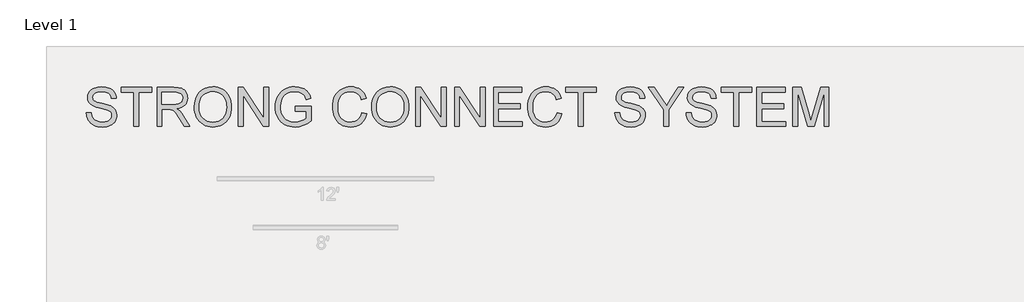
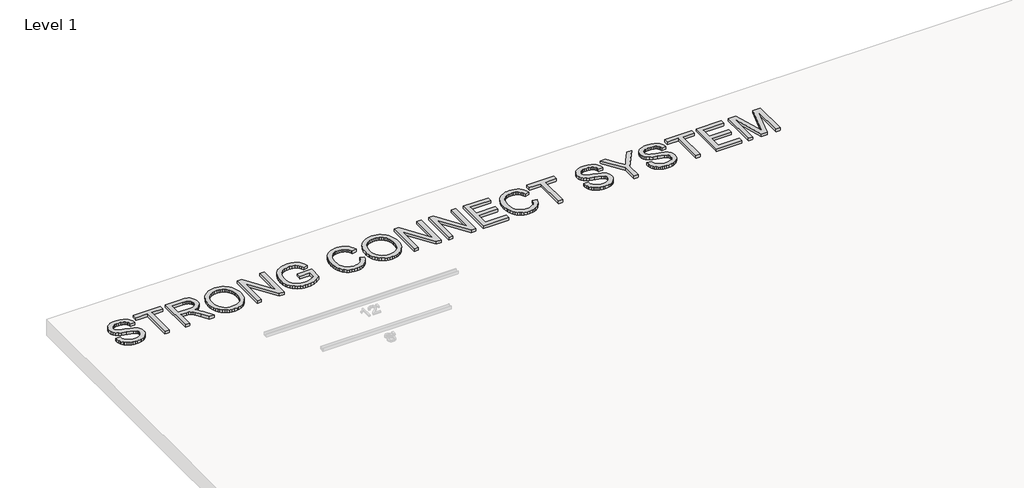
# One storey, part 8 of 9: 1 proxy.
"""IFC4 building model written with IfcOpenShell, lengths in millimetres."""

from ifc_helpers import new_model, si_unit, origin, origin_with_axes, place, context, project, spatial, polyline, outline, extrude, element, save

model = new_model("IFC4")

# Units and contexts
model_context = context("Model", 3, world=origin())
ifc_project = project(units=[si_unit("LENGTHUNIT", "METRE", prefix="MILLI")], contexts=[model_context])

# Site, building, storey
site = spatial("IfcSite", under=ifc_project)
building = spatial("IfcBuilding", under=site)
storey = spatial("IfcBuildingStorey", under=building, Name="Level 1", Elevation=0.0)

# Proxy
placement = place(None, origin())
element("IfcBuildingElementProxy", 1, Name="24\" Arial 2", ObjectType="24\" Arial 2", at=placement, inside=storey, context=model_context, shape_type="SweptSolid", body=[
    extrude(outline(polyline([(-11072.3689962, 14253.6450973), (-10996.2272227, 14253.6450973), (-10987.4902516, 14211.391618), (-10971.6893464, 14177.4289666), (-10947.0399344, 14150.4744813), (-10911.7574427, 14129.2455005), (-10868.6302662, 14115.4708291), (-10820.4468002, 14110.879272), (-10778.0260172, 14114.3554711), (-10740.8845954, 14124.7840685), (-10710.7885185, 14141.291367), (-10689.5037698, 14163.0036696), (-10676.8444563, 14187.9319212), (-10672.6246852, 14214.0870665), (-10675.7848662, 14239.5729971), (-10685.2654093, 14261.6013178), (-10704.5239243, 14280.3951003), (-10737.018021, 14296.1774161), (-10847.8846073, 14325.2510816), (-10920.6617174, 14344.4910073), (-10967.2279144, 14362.8014679), (-11005.1314974, 14388.4175236), (-11031.9930362, 14419.4616549), (-11047.9984236, 14455.264647), (-11053.3335528, 14495.1572852), (-11051.6837524, 14517.8315841), (-11046.7343512, 14539.7530163), (-11038.4853493, 14560.9215819), (-11026.9367465, 14581.3372808), (-11012.2186681, 14600.1682419), (-10994.4612391, 14616.5825939), (-10973.6644596, 14630.580337), (-10949.8283294, 14642.161471), (-10896.2539663, 14657.7207152), (-10836.9540988, 14662.90713), (-10772.7094773, 14657.4790543), (-10716.4954336, 14641.1948274), (-10691.9017895, 14629.065309), (-10670.319612, 14614.3890565), (-10651.7489011, 14597.1660699), (-10636.1896569, 14577.3963492), (-10623.7627097, 14555.6561626), (-10614.5888901, 14532.5217785), (-10608.668198, 14507.9931969), (-10606.0006334, 14482.0704179), (-10682.1424069, 14482.0704179), (-10687.2358751, 14506.3666332), (-10696.1215606, 14527.5026675), (-10708.7994633, 14545.4785208), (-10725.2695833, 14560.294193), (-10745.8386439, 14571.875327), (-10770.8133687, 14580.1475656), (-10800.1937577, 14585.1109087), (-10833.9798107, 14586.7653564), (-10868.8440432, 14585.129498), (-10898.6333967, 14580.2219228), (-10923.3478713, 14572.0426307), (-10942.9874669, 14560.5916218), (-10957.9518536, 14546.826245), (-10968.6407012, 14531.7038493), (-10975.0540098, 14515.2244347), (-10977.1917793, 14497.3880012), (-10975.6767513, 14482.0425339), (-10971.1316674, 14468.1284427), (-10963.5565276, 14455.6457277), (-10952.9513318, 14444.5943887), (-10936.2581403, 14434.1286127), (-10909.9728698, 14423.5513009), (-10828.6260923, 14402.0620699), (-10744.6768127, 14381.6510183), (-10693.8908446, 14363.8424687), (-10650.4848287, 14336.2187687), (-10633.703338, 14319.981015), (-10620.2028587, 14302.1259922), (-10609.8253819, 14282.7466467), (-10602.4128984, 14261.9359252), (-10596.4829117, 14216.0203537), (-10598.18848, 14192.2028129), (-10603.3051849, 14169.0823708), (-10611.8330263, 14146.6590275), (-10623.7720043, 14124.9327829), (-10638.9129893, 14104.7448029), (-10657.0468517, 14086.9362533), (-10678.1735913, 14071.5071342), (-10702.2932083, 14058.4574455), (-10728.7039565, 14048.0799686), (-10756.7040899, 14040.6674852), (-10817.4725122, 14034.7374984), (-10856.4217434, 14036.3361783), (-10892.0713738, 14041.1322177), (-10924.4214034, 14049.1256168), (-10953.4718322, 14060.3163755), (-10979.3992587, 14074.7230831), (-11002.380281, 14092.364329), (-11022.4148993, 14113.2401131), (-11039.5031135, 14137.3504354), (-11053.2684902, 14163.9145454), (-11063.3345963, 14192.1516923), (-11069.7014316, 14222.0618763), (-11072.3689962, 14253.6450973)])), origin_with_axes(), (0.0, 0.0, 1.0), 50.8),
    extrude(outline(polyline([(-10329.9867044, 14044.2552201), (-10329.9867044, 14577.2476347), (-10529.8588599, 14577.2476347), (-10529.8588599, 14653.3894083), (-10053.9727754, 14653.3894083), (-10053.9727754, 14577.2476347), (-10253.8449309, 14577.2476347), (-10253.8449309, 14044.2552201), (-10329.9867044, 14044.2552201)])), origin_with_axes(), (0.0, 0.0, 1.0), 50.8),
    extrude(outline(polyline([(-9968.3132802, 14044.2552201), (-9968.3132802, 14653.3894083), (-9705.8323617, 14653.3894083), (-9635.2859675, 14649.2811729), (-9583.9609098, 14636.9564669), (-9564.1540104, 14627.1599057), (-9546.447702, 14614.2031635), (-9530.8419845, 14598.0862402), (-9517.3368579, 14578.809136), (-9506.4388807, 14557.4082041), (-9498.6546112, 14534.9197983), (-9493.9840496, 14511.3439183), (-9492.4271957, 14486.6805643), (-9495.0064611, 14455.3947721), (-9502.7442573, 14426.6743033), (-9515.6405843, 14400.519158), (-9533.6954421, 14376.9293361), (-9557.1411969, 14356.6577042), (-9586.2102151, 14340.4571291), (-9620.9024965, 14328.3276108), (-9661.2180413, 14320.2691491), (-9636.122486, 14303.8733864), (-9617.9421505, 14287.7006952), (-9586.7493048, 14250.7079879), (-9556.2256739, 14209.3282057), (-9454.6537377, 14044.2552201), (-9543.1388066, 14044.2552201), (-9622.4035825, 14170.5137469), (-9679.6586271, 14254.0912405), (-9700.9433758, 14278.461813), (-9719.8858726, 14293.5749141), (-9756.0978294, 14308.0745682), (-9800.2660066, 14310.7514274), (-9892.1715067, 14310.7514274), (-9892.1715067, 14044.2552201), (-9968.3132802, 14044.2552201)]), holes=[polyline([(-9892.1715067, 14386.893201), (-9721.7448026, 14386.893201), (-9672.7991753, 14389.5886495), (-9634.821235, 14397.6749951), (-9606.2308914, 14411.6913274), (-9585.4480538, 14432.1767362), (-9572.7887403, 14456.9562733), (-9568.5689692, 14483.8549907), (-9570.581261, 14503.3272826), (-9576.6181362, 14520.9964124), (-9586.6795949, 14536.8623801), (-9600.7656371, 14550.9251857), (-9619.2015756, 14562.4412572), (-9642.312723, 14570.6670225), (-9670.0990794, 14575.6024817), (-9702.5606449, 14577.2476347), (-9892.1715067, 14577.2476347), (-9892.1715067, 14386.893201)])]), origin_with_axes(), (0.0, 0.0, 1.0), 50.8),
    extrude(outline(polyline([(-9387.7322571, 14340.7917365), (-9382.6573782, 14412.2397117), (-9367.4327413, 14475.4898056), (-9342.0583466, 14530.5420181), (-9325.56499, 14554.9939188), (-9306.5341939, 14577.3963492), (-9262.9887583, 14614.8073158), (-9213.5505145, 14641.5294348), (-9158.2194625, 14657.5627062), (-9096.9956024, 14662.90713), (-9056.0154901, 14660.3975744), (-9017.0987902, 14652.8689079), (-8980.2455026, 14640.3211302), (-8945.4556273, 14622.7542416), (-8913.7051026, 14600.6980369), (-8885.9698668, 14574.6823113), (-8862.2499198, 14544.7070648), (-8842.5452616, 14510.7722973), (-8827.0603745, 14473.6494649), (-8815.9997409, 14434.1100234), (-8809.3633608, 14392.1539729), (-8807.151234, 14347.7813134), (-8809.4795439, 14302.8230909), (-8816.4644734, 14260.3000668), (-8828.1060227, 14220.2122409), (-8844.4041916, 14182.5596134), (-8864.9732522, 14148.3367118), (-8889.4274766, 14118.5380636), (-8917.7668647, 14093.1636689), (-8949.9914166, 14072.2135276), (-8984.8324124, 14055.8177648), (-9021.0211325, 14044.1065057), (-9058.5575769, 14037.0797503), (-9097.4417456, 14034.7374984), (-9139.1375459, 14037.3260585), (-9178.5654515, 14045.0917386), (-9215.7254626, 14058.0345389), (-9250.617579, 14076.1544592), (-9282.3309251, 14098.7497536), (-9309.9546252, 14125.1186759), (-9333.4886792, 14155.2612261), (-9352.9330872, 14189.1774043), (-9368.157724, 14225.5055442), (-9379.0324646, 14262.8839795), (-9385.557309, 14301.3127103), (-9387.7322571, 14340.7917365)]), holes=[polyline([(-9311.5904836, 14340.0481645), (-9307.7843244, 14289.5689199), (-9296.3658467, 14244.7594118), (-9277.3350507, 14205.6196403), (-9250.6919362, 14172.1496053), (-9218.304728, 14145.3438345), (-9182.0416507, 14126.1968553), (-9141.9027043, 14114.7086678), (-9097.8878888, 14110.879272), (-9053.1202066, 14114.7458464), (-9012.5072331, 14126.3455697), (-8976.0489681, 14145.6784419), (-8943.7454117, 14172.7444629), (-8917.2974849, 14206.9208913), (-8898.4061086, 14247.5849854), (-8887.0712828, 14294.7367453), (-8883.2930076, 14348.376171), (-8884.9102767, 14383.2218142), (-8889.762084, 14415.7809734), (-8897.8484296, 14446.0536488), (-8909.1693134, 14474.0398402), (-8923.5992577, 14499.372409), (-8941.0127846, 14521.6842165), (-8961.4098942, 14540.9752628), (-8984.7905865, 14557.2455478), (-9010.4298788, 14570.1604641), (-9037.6027883, 14579.3854043), (-9066.3093151, 14584.9203684), (-9096.5494592, 14586.7653564), (-9139.0353047, 14583.2101528), (-9178.4539157, 14572.5445418), (-9214.8052922, 14554.7685235), (-9248.0894342, 14529.8820979), (-9275.8711433, 14496.6862551), (-9295.7152212, 14453.9819853), (-9307.621668, 14401.7692884), (-9311.5904836, 14340.0481645)])]), origin_with_axes(), (0.0, 0.0, 1.0), 50.8),
    extrude(outline(polyline([(-8702.4562954, 14044.2552201), (-8702.4562954, 14653.3894083), (-8620.9608035, 14653.3894083), (-8302.7119845, 14170.8111757), (-8302.7119845, 14653.3894083), (-8226.570211, 14653.3894083), (-8226.570211, 14044.2552201), (-8308.0657029, 14044.2552201), (-8626.3145219, 14526.9821671), (-8626.3145219, 14044.2552201), (-8702.4562954, 14044.2552201)])), origin_with_axes(), (0.0, 0.0, 1.0), 50.8),
    extrude(outline(polyline([(-7807.7904566, 14282.1982624), (-7807.7904566, 14358.3400359), (-7560.3296927, 14358.3400359), (-7560.3296927, 14130.6582873), (-7620.4660788, 14088.832362), (-7682.4985734, 14058.8292315), (-7746.2784623, 14040.7604317), (-7811.6570311, 14034.7374984), (-7855.393007, 14037.1308708), (-7897.0748654, 14044.310988), (-7936.702606, 14056.27785), (-7974.276229, 14073.0314568), (-8008.5827825, 14094.3208528), (-8038.4093146, 14119.8950825), (-8063.7558254, 14149.7541459), (-8084.6223148, 14183.898043), (-8100.9204838, 14221.2346524), (-8112.562033, 14260.6718528), (-8119.5469625, 14302.209644), (-8121.8752724, 14345.8480262), (-8119.5562572, 14389.4910557), (-8112.5992116, 14431.6376465), (-8101.0041356, 14472.2877986), (-8084.7710292, 14511.4415121), (-8064.1880266, 14547.3792767), (-8039.5432619, 14578.3815821), (-8010.8367351, 14604.4484282), (-7978.0684462, 14625.5798152), (-7941.949436, 14641.9105154), (-7903.1907451, 14653.5753013), (-7861.7923736, 14660.5741728), (-7817.7543215, 14662.90713), (-7755.0340227, 14657.4976436), (-7698.634086, 14641.2691846), (-7673.4502316, 14629.3906217), (-7651.138424, 14615.3928787), (-7631.6986634, 14599.2759555), (-7615.1309496, 14581.039852), (-7588.4924825, 14536.5556567), (-7569.1038424, 14480.285845), (-7639.2970398, 14460.5068297), (-7654.9678199, 14500.6411287), (-7674.0218526, 14530.9230987), (-7699.2289436, 14553.7507593), (-7733.3588987, 14571.5221303), (-7774.0508768, 14582.9545499), (-7818.9440367, 14586.7653564), (-7871.4959883, 14582.6571211), (-7916.4263268, 14570.3324151), (-7953.5677486, 14551.3341503), (-7982.7529499, 14527.2052387), (-8005.1530566, 14499.1911633), (-8021.9391946, 14468.5374073), (-8032.3492027, 14440.3746176), (-8039.7849228, 14411.0592912), (-8045.7334989, 14348.9710286), (-8043.9442787, 14310.9512624), (-8038.5766183, 14276.1567398), (-8029.6305176, 14244.5874608), (-8017.1059766, 14216.2434254), (-8001.1656517, 14191.231522), (-7981.9721993, 14169.6586391), (-7959.5256193, 14151.5247768), (-7933.8259118, 14136.829935), (-7906.076734, 14125.4765199), (-7877.481743, 14117.3669377), (-7848.0409388, 14112.5011884), (-7817.7543215, 14110.879272), (-7765.0164769, 14115.7682579), (-7713.5798833, 14130.4352157), (-7668.909795, 14150.641785), (-7636.4714662, 14172.1496053), (-7636.4714662, 14282.1982624), (-7807.7904566, 14282.1982624)])), origin_with_axes(), (0.0, 0.0, 1.0), 50.8),
    extrude(outline(polyline([(-6770.3587925, 14260.7833886), (-6694.2170189, 14241.1530876), (-6709.2836467, 14193.8014927), (-6729.3507963, 14152.4263578), (-6754.4184676, 14117.027683), (-6784.4866606, 14087.6054681), (-6818.8768659, 14064.4757314), (-6856.9105741, 14047.9544909), (-6898.5877851, 14038.0417465), (-6943.9084989, 14034.7374984), (-6990.3399234, 14037.2377593), (-7032.226264, 14044.7385419), (-7069.5675207, 14057.2398463), (-7102.3636936, 14074.7416724), (-7131.0655731, 14096.9837701), (-7156.1239497, 14123.7058891), (-7177.5388235, 14154.9080294), (-7195.3101945, 14190.5901911), (-7209.2661116, 14229.2094622), (-7219.2346238, 14269.2229308), (-7225.2157311, 14310.630597), (-7227.2094336, 14353.4324606), (-7224.9554809, 14399.3573267), (-7218.193623, 14442.2521369), (-7206.9238597, 14482.1168911), (-7191.1461912, 14518.9515894), (-7171.2138141, 14552.1474322), (-7147.4799251, 14581.0956199), (-7119.9445242, 14605.7961525), (-7088.6076115, 14626.24903), (-7054.5334242, 14642.2869487), (-7018.7862, 14653.742605), (-6981.3659387, 14660.6159987), (-6942.2726405, 14662.90713), (-6898.7225575, 14659.9421366), (-6858.7880934, 14651.0471564), (-6822.4692482, 14636.2221896), (-6789.7660218, 14615.4672359), (-6761.2175041, 14589.3306799), (-6737.3627846, 14558.3609058), (-6718.2018635, 14522.5579136), (-6703.7347406, 14481.9217035), (-6779.8765141, 14463.7785465), (-6791.8666128, 14493.7212617), (-6806.2733204, 14519.3047861), (-6823.0966371, 14540.5291196), (-6842.3365627, 14557.3942622), (-6864.1046332, 14570.2441159), (-6888.5123844, 14579.4225829), (-6915.5598161, 14584.929663), (-6945.2469285, 14586.7653564), (-6979.4047676, 14584.7298281), (-7010.6440865, 14578.623243), (-7038.9648853, 14568.4456011), (-7064.367164, 14554.1969025), (-7086.5302572, 14536.5184781), (-7105.1334993, 14516.0516586), (-7120.1768905, 14492.7964441), (-7131.6604307, 14466.7528345), (-7146.2158527, 14411.0221126), (-7151.06766, 14353.581175), (-7145.3235663, 14283.2392632), (-7138.1434491, 14251.6374529), (-7128.091285, 14222.415073), (-7115.0044177, 14196.1530392), (-7098.7201907, 14173.432267), (-7079.2386042, 14154.2527566), (-7056.5596579, 14138.6145078), (-7031.7847681, 14126.4803421), (-7006.0153508, 14117.8130809), (-6979.2514058, 14112.6127242), (-6951.4929334, 14110.879272), (-6918.3900371, 14113.2401131), (-6887.9361161, 14120.3226364), (-6860.1311703, 14132.1268421), (-6834.9751999, 14148.6527299), (-6813.0630623, 14169.8259428), (-6794.9896152, 14195.5721236), (-6780.7548586, 14225.8912721), (-6770.3587925, 14260.7833886)])), origin_with_axes(), (0.0, 0.0, 1.0), 50.8),
    extrude(outline(polyline([(-6618.0752454, 14340.7917365), (-6613.0003665, 14412.2397117), (-6597.7757296, 14475.4898056), (-6572.4013349, 14530.5420181), (-6555.9079783, 14554.9939188), (-6536.8771823, 14577.3963492), (-6493.3317466, 14614.8073158), (-6443.8935028, 14641.5294348), (-6388.5624508, 14657.5627062), (-6327.3385907, 14662.90713), (-6286.3584784, 14660.3975744), (-6247.4417785, 14652.8689079), (-6210.5884909, 14640.3211302), (-6175.7986157, 14622.7542416), (-6144.048091, 14600.6980369), (-6116.3128551, 14574.6823113), (-6092.5929081, 14544.7070648), (-6072.8882499, 14510.7722973), (-6057.4033628, 14473.6494649), (-6046.3427292, 14434.1100234), (-6039.7063491, 14392.1539729), (-6037.4942224, 14347.7813134), (-6039.8225322, 14302.8230909), (-6046.8074617, 14260.3000668), (-6058.449011, 14220.2122409), (-6074.7471799, 14182.5596134), (-6095.3162405, 14148.3367118), (-6119.7704649, 14118.5380636), (-6148.109853, 14093.1636689), (-6180.3344049, 14072.2135276), (-6215.1754007, 14055.8177648), (-6251.3641209, 14044.1065057), (-6288.9005652, 14037.0797503), (-6327.7847339, 14034.7374984), (-6369.4805342, 14037.3260585), (-6408.9084398, 14045.0917386), (-6446.0684509, 14058.0345389), (-6480.9605673, 14076.1544592), (-6512.6739134, 14098.7497536), (-6540.2976135, 14125.1186759), (-6563.8316675, 14155.2612261), (-6583.2760755, 14189.1774043), (-6598.5007123, 14225.5055442), (-6609.3754529, 14262.8839795), (-6615.9002973, 14301.3127103), (-6618.0752454, 14340.7917365)]), holes=[polyline([(-6541.9334719, 14340.0481645), (-6538.1273127, 14289.5689199), (-6526.7088351, 14244.7594118), (-6507.678039, 14205.6196403), (-6481.0349245, 14172.1496053), (-6448.6477163, 14145.3438345), (-6412.384639, 14126.1968553), (-6372.2456926, 14114.7086678), (-6328.2308771, 14110.879272), (-6283.4631949, 14114.7458464), (-6242.8502214, 14126.3455697), (-6206.3919564, 14145.6784419), (-6174.0884, 14172.7444629), (-6147.6404732, 14206.9208913), (-6128.7490969, 14247.5849854), (-6117.4142711, 14294.7367453), (-6113.6359959, 14348.376171), (-6115.253265, 14383.2218142), (-6120.1050723, 14415.7809734), (-6128.1914179, 14446.0536488), (-6139.5123017, 14474.0398402), (-6153.942246, 14499.372409), (-6171.3557729, 14521.6842165), (-6191.7528825, 14540.9752628), (-6215.1335748, 14557.2455478), (-6240.7728671, 14570.1604641), (-6267.9457766, 14579.3854043), (-6296.6523034, 14584.9203684), (-6326.8924475, 14586.7653564), (-6369.378293, 14583.2101528), (-6408.796904, 14572.5445418), (-6445.1482805, 14554.7685235), (-6478.4324225, 14529.8820979), (-6506.2141316, 14496.6862551), (-6526.0582096, 14453.9819853), (-6537.9646563, 14401.7692884), (-6541.9334719, 14340.0481645)])]), origin_with_axes(), (0.0, 0.0, 1.0), 50.8),
    extrude(outline(polyline([(-5932.7992838, 14044.2552201), (-5932.7992838, 14653.3894083), (-5851.3037918, 14653.3894083), (-5533.0549728, 14170.8111757), (-5533.0549728, 14653.3894083), (-5456.9131993, 14653.3894083), (-5456.9131993, 14044.2552201), (-5538.4086913, 14044.2552201), (-5856.6575102, 14526.9821671), (-5856.6575102, 14044.2552201), (-5932.7992838, 14044.2552201)])), origin_with_axes(), (0.0, 0.0, 1.0), 50.8),
    extrude(outline(polyline([(-5323.6650956, 14044.2552201), (-5323.6650956, 14653.3894083), (-5242.1696037, 14653.3894083), (-4923.9207847, 14170.8111757), (-4923.9207847, 14653.3894083), (-4847.7790111, 14653.3894083), (-4847.7790111, 14044.2552201), (-4929.2745031, 14044.2552201), (-5247.5233221, 14526.9821671), (-5247.5233221, 14044.2552201), (-5323.6650956, 14044.2552201)])), origin_with_axes(), (0.0, 0.0, 1.0), 50.8),
    extrude(outline(polyline([(-4714.5309075, 14044.2552201), (-4714.5309075, 14653.3894083), (-4276.7157098, 14653.3894083), (-4276.7157098, 14577.2476347), (-4638.389134, 14577.2476347), (-4638.389134, 14396.4109226), (-4295.7511531, 14396.4109226), (-4295.7511531, 14320.2691491), (-4638.389134, 14320.2691491), (-4638.389134, 14120.3969936), (-4267.1979881, 14120.3969936), (-4267.1979881, 14044.2552201), (-4714.5309075, 14044.2552201)])), origin_with_axes(), (0.0, 0.0, 1.0), 50.8),
    extrude(outline(polyline([(-3724.6878518, 14260.7833886), (-3648.5460783, 14241.1530876), (-3663.612706, 14193.8014927), (-3683.6798556, 14152.4263578), (-3708.7475269, 14117.027683), (-3738.8157199, 14087.6054681), (-3773.2059252, 14064.4757314), (-3811.2396334, 14047.9544909), (-3852.9168444, 14038.0417465), (-3898.2375582, 14034.7374984), (-3944.6689827, 14037.2377593), (-3986.5553233, 14044.7385419), (-4023.8965801, 14057.2398463), (-4056.6927529, 14074.7416724), (-4085.3946324, 14096.9837701), (-4110.453009, 14123.7058891), (-4131.8678828, 14154.9080294), (-4149.6392538, 14190.5901911), (-4163.5951709, 14229.2094622), (-4173.5636831, 14269.2229308), (-4179.5447904, 14310.630597), (-4181.5384929, 14353.4324606), (-4179.2845402, 14399.3573267), (-4172.5226823, 14442.2521369), (-4161.2529191, 14482.1168911), (-4145.4752505, 14518.9515894), (-4125.5428734, 14552.1474322), (-4101.8089844, 14581.0956199), (-4074.2735835, 14605.7961525), (-4042.9366708, 14626.24903), (-4008.8624835, 14642.2869487), (-3973.1152593, 14653.742605), (-3935.6949981, 14660.6159987), (-3896.6016998, 14662.90713), (-3853.0516168, 14659.9421366), (-3813.1171527, 14651.0471564), (-3776.7983075, 14636.2221896), (-3744.0950812, 14615.4672359), (-3715.5465634, 14589.3306799), (-3691.691844, 14558.3609058), (-3672.5309228, 14522.5579136), (-3658.0637999, 14481.9217035), (-3734.2055735, 14463.7785465), (-3746.1956721, 14493.7212617), (-3760.6023797, 14519.3047861), (-3777.4256964, 14540.5291196), (-3796.665622, 14557.3942622), (-3818.4336926, 14570.2441159), (-3842.8414437, 14579.4225829), (-3869.8888754, 14584.929663), (-3899.5759878, 14586.7653564), (-3933.7338269, 14584.7298281), (-3964.9731458, 14578.623243), (-3993.2939446, 14568.4456011), (-4018.6962233, 14554.1969025), (-4040.8593165, 14536.5184781), (-4059.4625586, 14516.0516586), (-4074.5059498, 14492.7964441), (-4085.98949, 14466.7528345), (-4100.544912, 14411.0221126), (-4105.3967194, 14353.581175), (-4099.6526256, 14283.2392632), (-4092.4725084, 14251.6374529), (-4082.4203443, 14222.415073), (-4069.333477, 14196.1530392), (-4053.0492501, 14173.432267), (-4033.5676635, 14154.2527566), (-4010.8887173, 14138.6145078), (-3986.1138275, 14126.4803421), (-3960.3444101, 14117.8130809), (-3933.5804652, 14112.6127242), (-3905.8219927, 14110.879272), (-3872.7190964, 14113.2401131), (-3842.2651754, 14120.3226364), (-3814.4602296, 14132.1268421), (-3789.3042592, 14148.6527299), (-3767.3921216, 14169.8259428), (-3749.3186745, 14195.5721236), (-3735.0839179, 14225.8912721), (-3724.6878518, 14260.7833886)])), origin_with_axes(), (0.0, 0.0, 1.0), 50.8),
    extrude(outline(polyline([(-3391.5675926, 14044.2552201), (-3391.5675926, 14577.2476347), (-3591.4397481, 14577.2476347), (-3591.4397481, 14653.3894083), (-3115.5536636, 14653.3894083), (-3115.5536636, 14577.2476347), (-3315.4258191, 14577.2476347), (-3315.4258191, 14044.2552201), (-3391.5675926, 14044.2552201)])), origin_with_axes(), (0.0, 0.0, 1.0), 50.8),
    extrude(outline(polyline([(-2820.5042913, 14253.6450973), (-2744.3625177, 14253.6450973), (-2735.6255467, 14211.391618), (-2719.8246415, 14177.4289666), (-2695.1752295, 14150.4744813), (-2659.8927377, 14129.2455005), (-2616.7655613, 14115.4708291), (-2568.5820953, 14110.879272), (-2526.1613123, 14114.3554711), (-2489.0198905, 14124.7840685), (-2458.9238135, 14141.291367), (-2437.6390648, 14163.0036696), (-2424.9797514, 14187.9319212), (-2420.7599803, 14214.0870665), (-2423.9201613, 14239.5729971), (-2433.4007044, 14261.6013178), (-2452.6592194, 14280.3951003), (-2485.1533161, 14296.1774161), (-2596.0199023, 14325.2510816), (-2668.7970125, 14344.4910073), (-2715.3632095, 14362.8014679), (-2753.2667925, 14388.4175236), (-2780.1283313, 14419.4616549), (-2796.1337187, 14455.264647), (-2801.4688479, 14495.1572852), (-2799.8190475, 14517.8315841), (-2794.8696463, 14539.7530163), (-2786.6206444, 14560.9215819), (-2775.0720416, 14581.3372808), (-2760.3539632, 14600.1682419), (-2742.5965342, 14616.5825939), (-2721.7997547, 14630.580337), (-2697.9636245, 14642.161471), (-2644.3892614, 14657.7207152), (-2585.0893938, 14662.90713), (-2520.8447724, 14657.4790543), (-2464.6307287, 14641.1948274), (-2440.0370846, 14629.065309), (-2418.4549071, 14614.3890565), (-2399.8841962, 14597.1660699), (-2384.3249519, 14577.3963492), (-2371.8980048, 14555.6561626), (-2362.7241851, 14532.5217785), (-2356.803493, 14507.9931969), (-2354.1359285, 14482.0704179), (-2430.277702, 14482.0704179), (-2435.3711702, 14506.3666332), (-2444.2568557, 14527.5026675), (-2456.9347584, 14545.4785208), (-2473.4048784, 14560.294193), (-2493.973939, 14571.875327), (-2518.9486638, 14580.1475656), (-2548.3290527, 14585.1109087), (-2582.1151058, 14586.7653564), (-2616.9793383, 14585.129498), (-2646.7686918, 14580.2219228), (-2671.4831664, 14572.0426307), (-2691.122762, 14560.5916218), (-2706.0871487, 14546.826245), (-2716.7759963, 14531.7038493), (-2723.1893048, 14515.2244347), (-2725.3270744, 14497.3880012), (-2723.8120464, 14482.0425339), (-2719.2669625, 14468.1284427), (-2711.6918227, 14455.6457277), (-2701.0866269, 14444.5943887), (-2684.3934354, 14434.1286127), (-2658.1081649, 14423.5513009), (-2576.7613874, 14402.0620699), (-2492.8121078, 14381.6510183), (-2442.0261397, 14363.8424687), (-2398.6201238, 14336.2187687), (-2381.838633, 14319.981015), (-2368.3381538, 14302.1259922), (-2357.960677, 14282.7466467), (-2350.5481935, 14261.9359252), (-2344.6182068, 14216.0203537), (-2346.3237751, 14192.2028129), (-2351.4404799, 14169.0823708), (-2359.9683214, 14146.6590275), (-2371.9072994, 14124.9327829), (-2387.0482844, 14104.7448029), (-2405.1821467, 14086.9362533), (-2426.3088864, 14071.5071342), (-2450.4285034, 14058.4574455), (-2476.8392516, 14048.0799686), (-2504.839385, 14040.6674852), (-2565.6078073, 14034.7374984), (-2604.5570384, 14036.3361783), (-2640.2066689, 14041.1322177), (-2672.5566985, 14049.1256168), (-2701.6071273, 14060.3163755), (-2727.5345538, 14074.7230831), (-2750.5155761, 14092.364329), (-2770.5501944, 14113.2401131), (-2787.6384085, 14137.3504354), (-2801.4037853, 14163.9145454), (-2811.4698914, 14192.1516923), (-2817.8367267, 14222.0618763), (-2820.5042913, 14253.6450973)])), origin_with_axes(), (0.0, 0.0, 1.0), 50.8),
    extrude(outline(polyline([(-2059.0865561, 14044.2552201), (-2059.0865561, 14302.2747066), (-2297.0295983, 14653.3894083), (-2207.2060999, 14653.3894083), (-2080.2040011, 14465.8605481), (-2015.2158077, 14370.237188), (-1950.0788999, 14472.7014106), (-1834.8252388, 14653.3894083), (-1745.0017403, 14653.3894083), (-1982.9447826, 14302.2747066), (-1982.9447826, 14044.2552201), (-2059.0865561, 14044.2552201)])), origin_with_axes(), (0.0, 0.0, 1.0), 50.8),
    extrude(outline(polyline([(-1706.9308536, 14253.6450973), (-1630.7890801, 14253.6450973), (-1622.052109, 14211.391618), (-1606.2512038, 14177.4289666), (-1581.6017918, 14150.4744813), (-1546.3193001, 14129.2455005), (-1503.1921236, 14115.4708291), (-1455.0086576, 14110.879272), (-1412.5878746, 14114.3554711), (-1375.4464528, 14124.7840685), (-1345.3503759, 14141.291367), (-1324.0656272, 14163.0036696), (-1311.4063137, 14187.9319212), (-1307.1865426, 14214.0870665), (-1310.3467236, 14239.5729971), (-1319.8272667, 14261.6013178), (-1339.0857817, 14280.3951003), (-1371.5798784, 14296.1774161), (-1482.4464647, 14325.2510816), (-1555.2235748, 14344.4910073), (-1601.7897718, 14362.8014679), (-1639.6933548, 14388.4175236), (-1666.5548936, 14419.4616549), (-1682.560281, 14455.264647), (-1687.8954102, 14495.1572852), (-1686.2456098, 14517.8315841), (-1681.2962086, 14539.7530163), (-1673.0472067, 14560.9215819), (-1661.4986039, 14581.3372808), (-1646.7805255, 14600.1682419), (-1629.0230965, 14616.5825939), (-1608.226317, 14630.580337), (-1584.3901868, 14642.161471), (-1530.8158237, 14657.7207152), (-1471.5159562, 14662.90713), (-1407.2713347, 14657.4790543), (-1351.057291, 14641.1948274), (-1326.4636469, 14629.065309), (-1304.8814694, 14614.3890565), (-1286.3107585, 14597.1660699), (-1270.7515143, 14577.3963492), (-1258.3245671, 14555.6561626), (-1249.1507475, 14532.5217785), (-1243.2300554, 14507.9931969), (-1240.5624908, 14482.0704179), (-1316.7042643, 14482.0704179), (-1321.7977325, 14506.3666332), (-1330.683418, 14527.5026675), (-1343.3613207, 14545.4785208), (-1359.8314407, 14560.294193), (-1380.4005013, 14571.875327), (-1405.3752261, 14580.1475656), (-1434.7556151, 14585.1109087), (-1468.5416681, 14586.7653564), (-1503.4059006, 14585.129498), (-1533.1952541, 14580.2219228), (-1557.9097287, 14572.0426307), (-1577.5493243, 14560.5916218), (-1592.513711, 14546.826245), (-1603.2025586, 14531.7038493), (-1609.6158672, 14515.2244347), (-1611.7536367, 14497.3880012), (-1610.2386087, 14482.0425339), (-1605.6935248, 14468.1284427), (-1598.118385, 14455.6457277), (-1587.5131892, 14444.5943887), (-1570.8199977, 14434.1286127), (-1544.5347272, 14423.5513009), (-1463.1879497, 14402.0620699), (-1379.2386701, 14381.6510183), (-1328.452702, 14363.8424687), (-1285.0466861, 14336.2187687), (-1268.2651954, 14319.981015), (-1254.7647161, 14302.1259922), (-1244.3872393, 14282.7466467), (-1236.9747558, 14261.9359252), (-1231.0447691, 14216.0203537), (-1232.7503374, 14192.2028129), (-1237.8670423, 14169.0823708), (-1246.3948837, 14146.6590275), (-1258.3338617, 14124.9327829), (-1273.4748467, 14104.7448029), (-1291.6087091, 14086.9362533), (-1312.7354487, 14071.5071342), (-1336.8550657, 14058.4574455), (-1363.2658139, 14048.0799686), (-1391.2659473, 14040.6674852), (-1452.0343696, 14034.7374984), (-1490.9836008, 14036.3361783), (-1526.6332312, 14041.1322177), (-1558.9832608, 14049.1256168), (-1588.0336896, 14060.3163755), (-1613.9611161, 14074.7230831), (-1636.9421384, 14092.364329), (-1656.9767567, 14113.2401131), (-1674.0649709, 14137.3504354), (-1687.8303476, 14163.9145454), (-1697.8964537, 14192.1516923), (-1704.263289, 14222.0618763), (-1706.9308536, 14253.6450973)])), origin_with_axes(), (0.0, 0.0, 1.0), 50.8),
    extrude(outline(polyline([(-964.5485618, 14044.2552201), (-964.5485618, 14577.2476347), (-1164.4207173, 14577.2476347), (-1164.4207173, 14653.3894083), (-688.5346328, 14653.3894083), (-688.5346328, 14577.2476347), (-888.4067883, 14577.2476347), (-888.4067883, 14044.2552201), (-964.5485618, 14044.2552201)])), origin_with_axes(), (0.0, 0.0, 1.0), 50.8),
    extrude(outline(polyline([(-602.8751376, 14044.2552201), (-602.8751376, 14653.3894083), (-165.0599398, 14653.3894083), (-165.0599398, 14577.2476347), (-526.7333641, 14577.2476347), (-526.7333641, 14396.4109226), (-184.0953832, 14396.4109226), (-184.0953832, 14320.2691491), (-526.7333641, 14320.2691491), (-526.7333641, 14120.3969936), (-155.5422182, 14120.3969936), (-155.5422182, 14044.2552201), (-602.8751376, 14044.2552201)])), origin_with_axes(), (0.0, 0.0, 1.0), 50.8),
    extrude(outline(polyline([(-41.3295579, 14044.2552201), (-41.3295579, 14653.3894083), (89.6878298, 14653.3894083), (214.3104981, 14224.0509314), (239.443232, 14134.3761474), (266.6579674, 14231.4866515), (389.1986342, 14653.3894083), (520.2160218, 14653.3894083), (520.2160218, 14044.2552201), (444.0742483, 14044.2552201), (444.0742483, 14577.2476347), (291.0471292, 14044.2552201), (187.8393347, 14044.2552201), (34.8122156, 14577.2476347), (34.8122156, 14044.2552201), (-41.3295579, 14044.2552201)])), origin_with_axes(), (0.0, 0.0, 1.0), 50.8),
])

save(model, "model.ifc")
